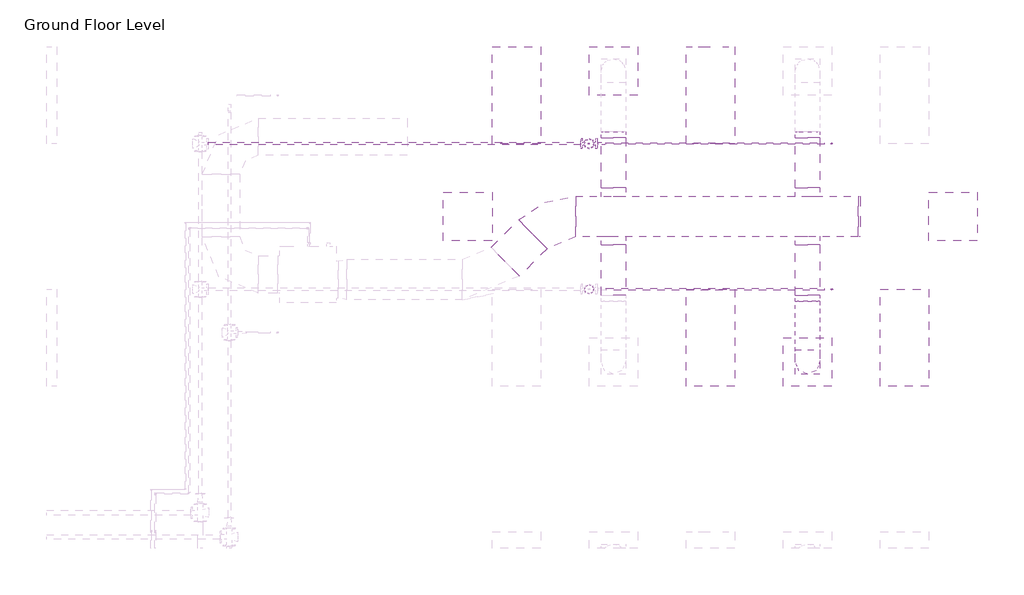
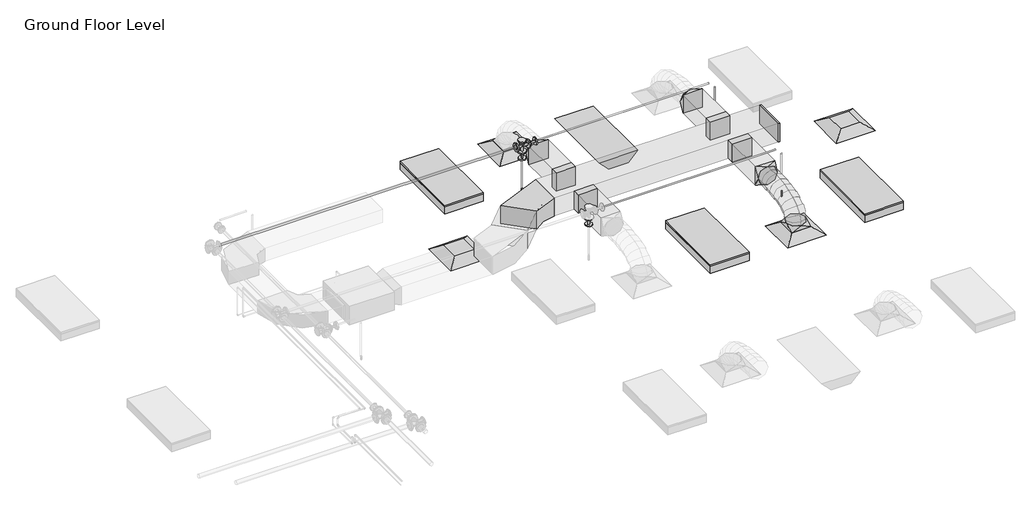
# One storey, part 71 of 72: 10 duct fittings, 7 duct segments, 6 pipe segments, 4 air terminals, 4 light fixtures, 4 pipe fittings, 3 fire suppression terminals.
"""IFC4 building model written with IfcOpenShell, lengths in millimetres."""

from ifc_helpers import new_model, si_unit, point, frame, frame_2d, origin, place, context, project, spatial, polyline, circle_curve, ellipse_curve, trimmed, segment, composite_curve, outline, extrude, transform, mapped, element, save
from ifc_brep_helpers import plane_surface, cylinder_surface, advanced_brep
from components import m_return_diffuser_600_x_600_face_300_x_300_connection_ff221211, m_rectangular_elbow_radius_1_5_w_acc56c25, m_rectangular_endcap_standard_72d4d00d, m_rectangular_takeoff_standard_cb0ccb98, m_rectangular_takeoff_standard_2be5eba1, m_rectangular_to_round_transition_angle_45_degree_641efff0, m_sprinkler_dry_pendent_hosted_15_mm_dry_pendent_9bda8e11, m_emergency_recessed_lighting_fixture_600x1200_277_5b10b25d, m_troffer_light_parabolic_rectangular1_0600x1200mm_4_lamp_86473d4a, m_reducer_flanged_cs_class_150_standard_ccf252ad, m_tee_round_base_flanged_cs_class_150_standard_7e5987a1

model = new_model("IFC4")

# Units and contexts
model_context = context("Model", 3, world=origin())
ifc_project = project(units=[si_unit("LENGTHUNIT", "METRE", prefix="MILLI")], contexts=[model_context])

# Site, building, storey
site = spatial("IfcSite", under=ifc_project)
building = spatial("IfcBuilding", under=site)
storey = spatial("IfcBuildingStorey", under=building, Name="Ground Floor Level", Elevation=900.0)

# Air terminals
placement = place(None, origin())
m_return_diffuser_600_x_600_face_300_x_300_connection_shape = m_return_diffuser_600_x_600_face_300_x_300_connection_ff221211(model_context)
element("IfcAirTerminal", 1, ObjectType="M_Return Diffuser : 600 x 600 Face 300 x 300 Connection", at=placement, inside=storey, context=model_context, shape_type="MappedRepresentation", body=[
    mapped(m_return_diffuser_600_x_600_face_300_x_300_connection_shape, transform((8942.7672395, 18735.2153534, 3650.0), x_axis=(1.0, 0.0, 0.0), y_axis=(0.0, 1.0, 0.0), z_axis=(0.0, 0.0, 1.0))),
])
element("IfcAirTerminal", 2, ObjectType="M_Return Diffuser : 600 x 600 Face 300 x 300 Connection", at=placement, inside=storey, context=model_context, shape_type="MappedRepresentation", body=[
    mapped(m_return_diffuser_600_x_600_face_300_x_300_connection_shape, transform((14942.7672395, 18735.2153534, 3650.0), x_axis=(1.0, 0.0, 0.0), y_axis=(0.0, 1.0, 0.0), z_axis=(0.0, 0.0, 1.0))),
])
element("IfcAirTerminal", 3, ObjectType="M_Supply Diffuser : 600 x 600 Face 300 x 300 Connection", at=placement, inside=storey, context=model_context, shape_type="MappedRepresentation", body=[
    mapped(m_return_diffuser_600_x_600_face_300_x_300_connection_shape, transform((10742.7672395, 20535.2153534, 3650.0), x_axis=(1.0, 0.0, 0.0), y_axis=(0.0, 1.0, 0.0), z_axis=(0.0, 0.0, 1.0))),
])
element("IfcAirTerminal", 4, ObjectType="M_Supply Diffuser : 600 x 600 Face 300 x 300 Connection", at=placement, inside=storey, context=model_context, shape_type="MappedRepresentation", body=[
    mapped(m_return_diffuser_600_x_600_face_300_x_300_connection_shape, transform((13142.7672395, 16935.2153534, 3650.0), x_axis=(1.0, 0.0, 0.0), y_axis=(0.0, 1.0, 0.0), z_axis=(0.0, 0.0, 1.0))),
])

# Duct fittings
m_rectangular_elbow_radius_1_5_w_shape = m_rectangular_elbow_radius_1_5_w_acc56c25(model_context)
element("IfcDuctFitting", 5, ObjectType="M_Rectangular Elbow - Radius : 1.5 W", at=placement, inside=storey, context=model_context, shape_type="MappedRepresentation", body=[
    mapped(m_rectangular_elbow_radius_1_5_w_shape, transform((9966.7301365, 18735.2153534, 4100.0), x_axis=(-1.0, 0.0, 0.0), y_axis=(0.0, -0.9999999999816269, 6.061864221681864e-06), z_axis=(0.0, 6.061864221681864e-06, 0.9999999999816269))),
])
m_rectangular_endcap_standard_shape = m_rectangular_endcap_standard_72d4d00d(model_context)
element("IfcDuctFitting", 6, ObjectType="M_Rectangular Endcap : Standard", at=placement, inside=storey, context=model_context, shape_type="MappedRepresentation", body=[
    mapped(m_rectangular_endcap_standard_shape, transform((13766.7301365, 18735.2153534, 4100.0), x_axis=(1.0, 0.0, 0.0), y_axis=(0.0, 1.0, 0.0), z_axis=(0.0, 0.0, 1.0))),
])
m_rectangular_takeoff_standard_shape = m_rectangular_takeoff_standard_cb0ccb98(model_context)
element("IfcDuctFitting", 7, ObjectType="M_Rectangular Takeoff : Standard", at=placement, inside=storey, context=model_context, shape_type="MappedRepresentation", body=[
    mapped(m_rectangular_takeoff_standard_shape, transform((10742.7672395, 18985.2153534, 4100.0), x_axis=(0.0, 1.0, 0.0), y_axis=(1.0, 0.0, 0.0), z_axis=(0.0, 0.0, -1.0))),
])
element("IfcDuctFitting", 8, ObjectType="M_Rectangular Takeoff : Standard", at=placement, inside=storey, context=model_context, shape_type="MappedRepresentation", body=[
    mapped(m_rectangular_takeoff_standard_shape, transform((13142.7672395, 18985.2153534, 4100.0), x_axis=(0.0, 1.0, 0.0), y_axis=(1.0, 0.0, 0.0), z_axis=(0.0, 0.0, -1.0))),
])
m_rectangular_takeoff_standard_2_shape = m_rectangular_takeoff_standard_2be5eba1(model_context)
element("IfcDuctFitting", 9, ObjectType="M_Rectangular Takeoff : Standard", at=placement, inside=storey, context=model_context, shape_type="MappedRepresentation", body=[
    mapped(m_rectangular_takeoff_standard_2_shape, transform((13142.7672395, 18485.2153534, 4100.0), x_axis=(0.0, -1.0, 0.0), y_axis=(-1.0, 0.0, 0.0), z_axis=(0.0, 0.0, -1.0))),
])
element("IfcDuctFitting", 10, ObjectType="M_Rectangular Takeoff : Standard", at=placement, inside=storey, context=model_context, shape_type="MappedRepresentation", body=[
    mapped(m_rectangular_takeoff_standard_2_shape, transform((10742.7672395, 18485.2153534, 4100.0), x_axis=(0.0, -1.0, 0.0), y_axis=(-1.0, 0.0, 0.0), z_axis=(0.0, 0.0, -1.0))),
])
m_rectangular_to_round_transition_angle_45_degree_shape = m_rectangular_to_round_transition_angle_45_degree_641efff0(model_context)
element("IfcDuctFitting", 11, ObjectType="M_Rectangular to Round Transition - Angle : 45 Degree", at=placement, inside=storey, context=model_context, shape_type="MappedRepresentation", body=[
    mapped(m_rectangular_to_round_transition_angle_45_degree_shape, transform((10742.7672395, 19707.8794221, 4100.0), x_axis=(0.0, 1.0, 0.0), y_axis=(-1.0, 0.0, 0.0), z_axis=(0.0, 0.0, 1.0))),
])
element("IfcDuctFitting", 12, ObjectType="M_Rectangular to Round Transition - Angle : 45 Degree", at=placement, inside=storey, context=model_context, shape_type="MappedRepresentation", body=[
    mapped(m_rectangular_to_round_transition_angle_45_degree_shape, transform((13142.7672395, 19707.8794221, 4100.0), x_axis=(0.0, 1.0, 0.0), y_axis=(-1.0, 0.0, 0.0), z_axis=(0.0, 0.0, 1.0))),
])
element("IfcDuctFitting", 13, ObjectType="M_Rectangular to Round Transition - Angle : 45 Degree", at=placement, inside=storey, context=model_context, shape_type="MappedRepresentation", body=[
    mapped(m_rectangular_to_round_transition_angle_45_degree_shape, transform((13142.7672395, 16935.2153534, 3751.6), x_axis=(0.0, 0.0, 1.0), y_axis=(-1.0, 0.0, 0.0), z_axis=(0.0, -1.0, 0.0))),
])
element("IfcDuctFitting", 14, ObjectType="M_Rectangular to Round Transition - Angle : 45 Degree", at=placement, inside=storey, context=model_context, shape_type="MappedRepresentation", body=[
    mapped(m_rectangular_to_round_transition_angle_45_degree_shape, transform((13142.7672395, 17762.5512847, 4100.0), x_axis=(0.0, -1.0, 0.0), y_axis=(1.0, 0.0, 0.0), z_axis=(0.0, 0.0, 1.0))),
])

# Duct segments
element("IfcDuctSegment", 15, ObjectType="Flex - Round", at=placement, inside=storey, context=model_context, shape_type="AdvancedBrep", body=[
    advanced_brep(
    [(13292.7672395, 16935.2153534, 3826.6), (13142.7672395, 16785.2153534, 3826.6), (12992.7672395, 16935.2153534, 3826.6), (13142.7672395, 17085.2153534, 3826.6), (13292.7672395, 16935.2153534, 3857.9377114), (13142.7672395, 16785.2153534, 3883.5809337), (12992.7672395, 16935.2153534, 3857.9377114), (13142.7672395, 17085.2153534, 3832.2944892), (13292.7672395, 16952.2312859, 3906.2505728), (13142.7672395, 16818.493307, 3978.0660967), (12992.7672395, 16952.2312859, 3906.2505728), (13142.7672395, 17085.9692649, 3834.435049), (13292.7672395, 16999.4151663, 3968.7113131), (13142.7672395, 16895.209267, 4079.6206026), (12992.7672395, 16999.4151663, 3968.7113131), (13142.7672395, 17103.6210655, 3857.8020236), (13292.7672395, 17070.9711184, 4016.0700639), (13142.7672395, 17002.0370628, 4150.3237489), (12992.7672395, 17070.9711184, 4016.0700639), (13142.7672395, 17139.9051741, 3881.8163788), (13292.7672395, 17161.1032664, 4050.4146682), (13142.7672395, 17117.5425033, 4194.3367758), (12992.7672395, 17161.1032664, 4050.4146682), (13142.7672395, 17204.6640296, 3906.4925606), (13292.7672395, 17264.0157343, 4073.8329691), (13142.7672395, 17237.4548103, 4221.6234841), (12992.7672395, 17264.0157343, 4073.8329691), (13142.7672395, 17290.5766583, 3926.0424542), (13292.7672395, 17373.912646, 4088.4128097), (13142.7672395, 17358.7617437, 4237.7170733), (12992.7672395, 17373.912646, 4088.4128097), (13142.7672395, 17389.0635483, 3939.1085462), (13292.7672395, 17484.9981256, 4096.242033), (13142.7672395, 17477.4927975, 4246.085151), (12992.7672395, 17484.9981256, 4096.242033), (13142.7672395, 17492.5034538, 3946.398915), (13292.7672395, 17591.4762972, 4099.4084821), (13142.7672395, 17588.7848041, 4249.394754), (12992.7672395, 17591.4762972, 4099.4084821), (13142.7672395, 17594.1677903, 3949.4222102), (13292.7672395, 17687.5512847, 4100.0), (13142.7672395, 17688.4747925, 3950.0028429), (12992.7672395, 17687.5512847, 4100.0), (13142.7672395, 17686.6277768, 4249.9971571)],
    [
        (0, 1, circle_curve(frame((13142.7672395, 16935.2153534, 3826.6), z_axis=(0.0, 0.0, -1.0), x_axis=(1.0, 0.0, 0.0)), 150.0)),
        (1, 2, circle_curve(frame((13142.7672395, 16935.2153534, 3826.6), z_axis=(0.0, 0.0, -1.0), x_axis=(1.0, 0.0, 0.0)), 150.0)),
        (2, 3, circle_curve(frame((13142.7672395, 16935.2153534, 3826.6), z_axis=(0.0, 0.0, -1.0), x_axis=(1.0, 0.0, 0.0)), 150.0)),
        (3, 0, circle_curve(frame((13142.7672395, 16935.2153534, 3826.6), z_axis=(0.0, 0.0, -1.0), x_axis=(1.0, 0.0, 0.0)), 150.0)),
        (0, 4),
        (4, 5, ellipse_curve(frame((13142.7672395, 16935.2153534, 3857.9377114), z_axis=(0.0, -0.16851014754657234, -0.9856999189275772), x_axis=(0.0, 0.9856999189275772, -0.1685101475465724)), 152.176131, 150.0)),
        (5, 1),
        (5, 6, ellipse_curve(frame((13142.7672395, 16935.2153534, 3857.9377114), z_axis=(0.0, -0.16851014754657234, -0.9856999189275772), x_axis=(0.0, 0.9856999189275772, -0.1685101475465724)), 152.176131, 150.0)),
        (6, 2),
        (6, 7, ellipse_curve(frame((13142.7672395, 16935.2153534, 3857.9377114), z_axis=(0.0, -0.16851014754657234, -0.9856999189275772), x_axis=(0.0, 0.9856999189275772, -0.1685101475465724)), 152.176131, 150.0)),
        (7, 3),
        (7, 4, ellipse_curve(frame((13142.7672395, 16935.2153534, 3857.9377114), z_axis=(0.0, -0.16851014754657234, -0.9856999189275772), x_axis=(0.0, 0.9856999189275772, -0.1685101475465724)), 152.176131, 150.0)),
        (4, 8),
        (8, 9, ellipse_curve(frame((13142.7672395, 16952.2312859, 3906.2505728), z_axis=(0.0, -0.4730922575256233, -0.8810128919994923), x_axis=(0.0, 0.8810128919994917, -0.47309225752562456)), 151.8002519, 150.0)),
        (9, 5),
        (9, 10, ellipse_curve(frame((13142.7672395, 16952.2312859, 3906.2505728), z_axis=(0.0, -0.4730922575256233, -0.8810128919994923), x_axis=(0.0, 0.8810128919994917, -0.47309225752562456)), 151.8002519, 150.0)),
        (10, 6),
        (10, 11, ellipse_curve(frame((13142.7672395, 16952.2312859, 3906.2505728), z_axis=(0.0, -0.4730922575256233, -0.8810128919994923), x_axis=(0.0, 0.8810128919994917, -0.47309225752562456)), 151.8002519, 150.0)),
        (11, 7),
        (11, 8, ellipse_curve(frame((13142.7672395, 16952.2312859, 3906.2505728), z_axis=(0.0, -0.4730922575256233, -0.8810128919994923), x_axis=(0.0, 0.8810128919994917, -0.47309225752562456)), 151.8002519, 150.0)),
        (8, 12),
        (12, 13, ellipse_curve(frame((13142.7672395, 16999.4151663, 3968.7113131), z_axis=(0.0, -0.7287877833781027, -0.684739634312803), x_axis=(0.0, 0.6847396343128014, -0.7287877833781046)), 152.1832446, 150.0)),
        (13, 9),
        (13, 14, ellipse_curve(frame((13142.7672395, 16999.4151663, 3968.7113131), z_axis=(0.0, -0.7287877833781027, -0.684739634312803), x_axis=(0.0, 0.6847396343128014, -0.7287877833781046)), 152.1832446, 150.0)),
        (14, 10),
        (14, 15, ellipse_curve(frame((13142.7672395, 16999.4151663, 3968.7113131), z_axis=(0.0, -0.7287877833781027, -0.684739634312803), x_axis=(0.0, 0.6847396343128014, -0.7287877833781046)), 152.1832446, 150.0)),
        (15, 11),
        (15, 12, ellipse_curve(frame((13142.7672395, 16999.4151663, 3968.7113131), z_axis=(0.0, -0.7287877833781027, -0.684739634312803), x_axis=(0.0, 0.6847396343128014, -0.7287877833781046)), 152.1832446, 150.0)),
        (12, 16),
        (16, 17, ellipse_curve(frame((13142.7672395, 17070.9711184, 4016.0700639), z_axis=(0.0, -0.8895859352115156, -0.45676784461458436), x_axis=(0.0, 0.45676784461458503, -0.8895859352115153)), 150.91705, 150.0)),
        (17, 13),
        (17, 18, ellipse_curve(frame((13142.7672395, 17070.9711184, 4016.0700639), z_axis=(0.0, -0.8895859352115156, -0.45676784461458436), x_axis=(0.0, 0.45676784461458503, -0.8895859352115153)), 150.91705, 150.0)),
        (18, 14),
        (18, 19, ellipse_curve(frame((13142.7672395, 17070.9711184, 4016.0700639), z_axis=(0.0, -0.8895859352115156, -0.45676784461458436), x_axis=(0.0, 0.45676784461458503, -0.8895859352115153)), 150.91705, 150.0)),
        (19, 15),
        (19, 16, ellipse_curve(frame((13142.7672395, 17070.9711184, 4016.0700639), z_axis=(0.0, -0.8895859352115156, -0.45676784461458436), x_axis=(0.0, 0.45676784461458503, -0.8895859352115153)), 150.91705, 150.0)),
        (16, 20),
        (20, 21, ellipse_curve(frame((13142.7672395, 17161.1032664, 4050.4146682), z_axis=(0.0, -0.9571203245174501, -0.2896906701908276), x_axis=(0.0, 0.28969067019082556, -0.9571203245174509)), 150.369921, 150.0)),
        (21, 17),
        (21, 22, ellipse_curve(frame((13142.7672395, 17161.1032664, 4050.4146682), z_axis=(0.0, -0.9571203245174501, -0.2896906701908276), x_axis=(0.0, 0.28969067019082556, -0.9571203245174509)), 150.369921, 150.0)),
        (22, 18),
        (22, 23, ellipse_curve(frame((13142.7672395, 17161.1032664, 4050.4146682), z_axis=(0.0, -0.9571203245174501, -0.2896906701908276), x_axis=(0.0, 0.28969067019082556, -0.9571203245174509)), 150.369921, 150.0)),
        (23, 19),
        (23, 20, ellipse_curve(frame((13142.7672395, 17161.1032664, 4050.4146682), z_axis=(0.0, -0.9571203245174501, -0.2896906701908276), x_axis=(0.0, 0.28969067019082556, -0.9571203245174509)), 150.369921, 150.0)),
        (20, 24),
        (24, 25, ellipse_curve(frame((13142.7672395, 17264.0157343, 4073.8329691), z_axis=(0.0, -0.9842313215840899, -0.176886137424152), x_axis=(0.0, 0.17688613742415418, -0.9842313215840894)), 150.1583131, 150.0)),
        (25, 21),
        (25, 26, ellipse_curve(frame((13142.7672395, 17264.0157343, 4073.8329691), z_axis=(0.0, -0.9842313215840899, -0.176886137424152), x_axis=(0.0, 0.17688613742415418, -0.9842313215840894)), 150.1583131, 150.0)),
        (26, 22),
        (26, 27, ellipse_curve(frame((13142.7672395, 17264.0157343, 4073.8329691), z_axis=(0.0, -0.9842313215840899, -0.176886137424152), x_axis=(0.0, 0.17688613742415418, -0.9842313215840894)), 150.1583131, 150.0)),
        (27, 23),
        (27, 24, ellipse_curve(frame((13142.7672395, 17264.0157343, 4073.8329691), z_axis=(0.0, -0.9842313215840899, -0.176886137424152), x_axis=(0.0, 0.17688613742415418, -0.9842313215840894)), 150.1583131, 150.0)),
        (24, 28),
        (28, 29, ellipse_curve(frame((13142.7672395, 17373.912646, 4088.4128097), z_axis=(0.0, -0.9948906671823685, -0.10095821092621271), x_axis=(0.0, 0.10095821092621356, -0.9948906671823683)), 150.0710264, 150.0)),
        (29, 25),
        (29, 30, ellipse_curve(frame((13142.7672395, 17373.912646, 4088.4128097), z_axis=(0.0, -0.9948906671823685, -0.10095821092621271), x_axis=(0.0, 0.10095821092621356, -0.9948906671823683)), 150.0710264, 150.0)),
        (30, 26),
        (30, 31, ellipse_curve(frame((13142.7672395, 17373.912646, 4088.4128097), z_axis=(0.0, -0.9948906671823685, -0.10095821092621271), x_axis=(0.0, 0.10095821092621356, -0.9948906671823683)), 150.0710264, 150.0)),
        (31, 27),
        (31, 28, ellipse_curve(frame((13142.7672395, 17373.912646, 4088.4128097), z_axis=(0.0, -0.9948906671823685, -0.10095821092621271), x_axis=(0.0, 0.10095821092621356, -0.9948906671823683)), 150.0710264, 150.0)),
        (28, 32),
        (32, 33, ellipse_curve(frame((13142.7672395, 17484.9981256, 4096.242033), z_axis=(0.0, -0.9987479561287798, -0.050025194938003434), x_axis=(0.0, 0.05002519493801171, -0.9987479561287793)), 150.0309634, 150.0)),
        (33, 29),
        (33, 34, ellipse_curve(frame((13142.7672395, 17484.9981256, 4096.242033), z_axis=(0.0, -0.9987479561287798, -0.050025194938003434), x_axis=(0.0, 0.05002519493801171, -0.9987479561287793)), 150.0309634, 150.0)),
        (34, 30),
        (34, 35, ellipse_curve(frame((13142.7672395, 17484.9981256, 4096.242033), z_axis=(0.0, -0.9987479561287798, -0.050025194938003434), x_axis=(0.0, 0.05002519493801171, -0.9987479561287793)), 150.0309634, 150.0)),
        (35, 31),
        (35, 32, ellipse_curve(frame((13142.7672395, 17484.9981256, 4096.242033), z_axis=(0.0, -0.9987479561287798, -0.050025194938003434), x_axis=(0.0, 0.05002519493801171, -0.9987479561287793)), 150.0309634, 150.0)),
        (32, 36),
        (36, 37, ellipse_curve(frame((13142.7672395, 17591.4762972, 4099.4084821), z_axis=(0.0, -0.9998390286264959, -0.01794204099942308), x_axis=(0.0, 0.017942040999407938, -0.9998390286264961)), 150.0104193, 150.0)),
        (37, 33),
        (37, 38, ellipse_curve(frame((13142.7672395, 17591.4762972, 4099.4084821), z_axis=(0.0, -0.9998390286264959, -0.01794204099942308), x_axis=(0.0, 0.017942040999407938, -0.9998390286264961)), 150.0104193, 150.0)),
        (38, 34),
        (38, 39, ellipse_curve(frame((13142.7672395, 17591.4762972, 4099.4084821), z_axis=(0.0, -0.9998390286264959, -0.01794204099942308), x_axis=(0.0, 0.017942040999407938, -0.9998390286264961)), 150.0104193, 150.0)),
        (39, 35),
        (39, 36, ellipse_curve(frame((13142.7672395, 17591.4762972, 4099.4084821), z_axis=(0.0, -0.9998390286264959, -0.01794204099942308), x_axis=(0.0, 0.017942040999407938, -0.9998390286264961)), 150.0104193, 150.0)),
        (40, 41, circle_curve(frame((13142.7672395, 17687.5512847, 4100.0), z_axis=(0.0, 0.9999810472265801, 0.006156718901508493), x_axis=(1.0, 0.0, 0.0)), 150.0)),
        (41, 42, circle_curve(frame((13142.7672395, 17687.5512847, 4100.0), z_axis=(0.0, 0.9999810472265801, 0.006156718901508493), x_axis=(1.0, 0.0, 0.0)), 150.0)),
        (42, 43, circle_curve(frame((13142.7672395, 17687.5512847, 4100.0), z_axis=(0.0, 0.9999810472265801, 0.006156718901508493), x_axis=(1.0, 0.0, 0.0)), 150.0)),
        (43, 40, circle_curve(frame((13142.7672395, 17687.5512847, 4100.0), z_axis=(0.0, 0.9999810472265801, 0.006156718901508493), x_axis=(1.0, 0.0, 0.0)), 150.0)),
        (36, 40),
        (43, 37),
        (42, 38),
        (41, 39),
    ],
    [
        plane_surface(frame((13142.7672395, 16785.2153534, 3826.6), z_axis=(0.0, 0.0, -1.0), x_axis=(1.0, 0.0, 0.0))),
        cylinder_surface(frame((13142.7672395, 16935.2153534, 3826.6), z_axis=(0.0, 0.0, -1.0), x_axis=(1.0, 0.0, 0.0)), 150.0),
        cylinder_surface(frame((13142.7672395, 16935.2153534, 3857.9377114), z_axis=(0.0, -0.3322008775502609, -0.9432086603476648), x_axis=(1.0, 0.0, 0.0)), 150.0),
        cylinder_surface(frame((13142.7672395, 16952.2312859, 3906.2505728), z_axis=(0.0, -0.6027625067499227, -0.7979206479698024), x_axis=(1.0, 0.0, 0.0)), 150.0),
        cylinder_surface(frame((13142.7672395, 16999.4151663, 3968.7113131), z_axis=(0.0, -0.8339024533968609, -0.5519118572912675), x_axis=(1.0, 0.0, 0.0)), 150.0),
        cylinder_surface(frame((13142.7672395, 17070.9711184, 4016.0700639), z_axis=(0.0, -0.9344582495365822, -0.35607271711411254), x_axis=(1.0, 0.0, 0.0)), 150.0),
        cylinder_surface(frame((13142.7672395, 17161.1032664, 4050.4146682), z_axis=(0.0, -0.9750732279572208, -0.22188330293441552), x_axis=(1.0, 0.0, 0.0)), 150.0),
        cylinder_surface(frame((13142.7672395, 17264.0157343, 4073.8329691), z_axis=(0.0, -0.9913140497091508, -0.13151598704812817), x_axis=(1.0, 0.0, 0.0)), 150.0),
        cylinder_surface(frame((13142.7672395, 17373.912646, 4088.4128097), z_axis=(0.0, -0.9975255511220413, -0.07030487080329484), x_axis=(1.0, 0.0, 0.0)), 150.0),
        cylinder_surface(frame((13142.7672395, 17484.9981256, 4096.242033), z_axis=(0.0, -0.9995581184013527, -0.029724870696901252), x_axis=(1.0, 0.0, 0.0)), 150.0),
        plane_surface(frame((13142.7672395, 17686.6277768, 4249.9971571), z_axis=(0.0, 0.9999810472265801, 0.0061567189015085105), x_axis=(1.0, 0.0, 0.0))),
        cylinder_surface(frame((13142.7672395, 17591.4762972, 4099.4084821), z_axis=(0.0, -0.9999810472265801, -0.006156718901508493), x_axis=(1.0, 0.0, 0.0)), 150.0),
    ],
    [
        (0, [[1, 2, 3, 4]]),
        (1, [[-1, 5, 6, 7]]),
        (1, [[-2, -7, 8, 9]]),
        (1, [[-3, -9, 10, 11]]),
        (1, [[-4, -11, 12, -5]]),
        (2, [[-6, 13, 14, 15]]),
        (2, [[-8, -15, 16, 17]]),
        (2, [[-10, -17, 18, 19]]),
        (2, [[-12, -19, 20, -13]]),
        (3, [[-14, 21, 22, 23]]),
        (3, [[-16, -23, 24, 25]]),
        (3, [[-18, -25, 26, 27]]),
        (3, [[-20, -27, 28, -21]]),
        (4, [[-22, 29, 30, 31]]),
        (4, [[-24, -31, 32, 33]]),
        (4, [[-26, -33, 34, 35]]),
        (4, [[-28, -35, 36, -29]]),
        (5, [[-30, 37, 38, 39]]),
        (5, [[-32, -39, 40, 41]]),
        (5, [[-34, -41, 42, 43]]),
        (5, [[-36, -43, 44, -37]]),
        (6, [[-38, 45, 46, 47]]),
        (6, [[-40, -47, 48, 49]]),
        (6, [[-42, -49, 50, 51]]),
        (6, [[-44, -51, 52, -45]]),
        (7, [[-46, 53, 54, 55]]),
        (7, [[-48, -55, 56, 57]]),
        (7, [[-50, -57, 58, 59]]),
        (7, [[-52, -59, 60, -53]]),
        (8, [[-54, 61, 62, 63]]),
        (8, [[-56, -63, 64, 65]]),
        (8, [[-58, -65, 66, 67]]),
        (8, [[-60, -67, 68, -61]]),
        (9, [[-62, 69, 70, 71]]),
        (9, [[-64, -71, 72, 73]]),
        (9, [[-66, -73, 74, 75]]),
        (9, [[-68, -75, 76, -69]]),
        (10, [[77, 78, 79, 80]]),
        (11, [[-70, 81, -80, 82]]),
        (11, [[-72, -82, -79, 83]]),
        (11, [[-74, -83, -78, 84]]),
        (11, [[-76, -84, -77, -81]]),
    ],
),
])
element("IfcDuctSegment", 16, ObjectType="Radius Elbows / Taps", at=placement, inside=storey, context=model_context, shape_type="SweptSolid", body=[
    extrude(outline(polyline([(9584.1393452, 17999.0711715), (9230.5859546, 18352.6245621), (9570.2835271, 18692.3221346), (9923.8369177, 18338.768744), (9584.1393452, 17999.0711715)])), frame((0.0, 0.0, 3950.0033908), z_axis=(0.0, 0.0, 1.0), x_axis=(1.0, 0.0, 0.0)), (0.0, 0.0, 1.0), 300.0),
])
element("IfcDuctSegment", 17, ObjectType="Radius Elbows / Taps", at=placement, inside=storey, context=model_context, shape_type="SweptSolid", body=[
    extrude(outline(polyline([(10277.3903083, 18485.2153534), (10277.3903083, 18985.2153534), (13766.7301365, 18985.2153534), (13766.7301365, 18485.2153534), (10277.3903083, 18485.2153534)])), frame((0.0, 0.0, 3950.0), z_axis=(0.0, 0.0, 1.0), x_axis=(1.0, 0.0, 0.0)), (0.0, 0.0, 1.0), 300.0),
])
element("IfcDuctSegment", 18, ObjectType="Radius Elbows / Taps", at=placement, inside=storey, context=model_context, shape_type="SweptSolid", body=[
    extrude(outline(polyline([(10892.7672395, 19086.8153534), (10592.7672395, 19086.8153534), (10592.7672395, 19707.8794221), (10892.7672395, 19707.8794221), (10892.7672395, 19086.8153534)])), frame((0.0, 0.0, 3950.0), z_axis=(0.0, 0.0, 1.0), x_axis=(1.0, 0.0, 0.0)), (0.0, 0.0, 1.0), 300.0),
])
element("IfcDuctSegment", 19, ObjectType="Radius Elbows / Taps", at=placement, inside=storey, context=model_context, shape_type="SweptSolid", body=[
    extrude(outline(polyline([(13292.7672395, 19086.8153534), (12992.7672395, 19086.8153534), (12992.7672395, 19707.8794221), (13292.7672395, 19707.8794221), (13292.7672395, 19086.8153534)])), frame((0.0, 0.0, 3950.0), z_axis=(0.0, 0.0, 1.0), x_axis=(1.0, 0.0, 0.0)), (0.0, 0.0, 1.0), 300.0),
])
element("IfcDuctSegment", 20, ObjectType="Radius Elbows / Taps", at=placement, inside=storey, context=model_context, shape_type="SweptSolid", body=[
    extrude(outline(polyline([(12992.7672395, 18383.6153534), (13292.7672395, 18383.6153534), (13292.7672395, 17762.5512847), (12992.7672395, 17762.5512847), (12992.7672395, 18383.6153534)])), frame((0.0, 0.0, 3950.0), z_axis=(0.0, 0.0, 1.0), x_axis=(1.0, 0.0, 0.0)), (0.0, 0.0, 1.0), 300.0),
])
element("IfcDuctSegment", 21, ObjectType="Radius Elbows / Taps", at=placement, inside=storey, context=model_context, shape_type="SweptSolid", body=[
    extrude(outline(polyline([(10592.7672395, 18383.6153534), (10892.7672395, 18383.6153534), (10892.7672395, 17762.5512847), (10592.7672395, 17762.5512847), (10592.7672395, 18383.6153534)])), frame((0.0, 0.0, 3950.0), z_axis=(0.0, 0.0, 1.0), x_axis=(1.0, 0.0, 0.0)), (0.0, 0.0, 1.0), 300.0),
])

# Fire suppression terminals
m_sprinkler_dry_pendent_hosted_15_mm_dry_pendent_shape = m_sprinkler_dry_pendent_hosted_15_mm_dry_pendent_9bda8e11(model_context)
element("IfcFireSuppressionTerminal", 22, ObjectType="M_Sprinkler - Dry - Pendent - Hosted : 15 mm Dry Pendent", at=placement, inside=storey, context=model_context, shape_type="MappedRepresentation", body=[
    mapped(m_sprinkler_dry_pendent_hosted_15_mm_dry_pendent_shape, transform((10442.7672395, 19635.2153534, 3650.0), x_axis=(1.0, 0.0, 0.0), y_axis=(0.0, -1.0, 0.0), z_axis=(0.0, 0.0, -1.0))),
])
element("IfcFireSuppressionTerminal", 23, ObjectType="M_Sprinkler - Dry - Pendent - Hosted : 15 mm Dry Pendent", at=placement, inside=storey, context=model_context, shape_type="MappedRepresentation", body=[
    mapped(m_sprinkler_dry_pendent_hosted_15_mm_dry_pendent_shape, transform((13442.7672395, 19635.2153534, 3650.0), x_axis=(1.0, 0.0, 0.0), y_axis=(0.0, -1.0, 0.0), z_axis=(0.0, 0.0, -1.0))),
])
element("IfcFireSuppressionTerminal", 24, ObjectType="M_Sprinkler - Dry - Pendent - Hosted : 15 mm Dry Pendent", at=placement, inside=storey, context=model_context, shape_type="MappedRepresentation", body=[
    mapped(m_sprinkler_dry_pendent_hosted_15_mm_dry_pendent_shape, transform((13442.7672395, 17835.2153534, 3650.0), x_axis=(1.0, 0.0, 0.0), y_axis=(0.0, -1.0, 0.0), z_axis=(0.0, 0.0, -1.0))),
])

# Light fixtures
m_emergency_recessed_lighting_fixture_600x1200_277_shape = m_emergency_recessed_lighting_fixture_600x1200_277_5b10b25d(model_context)
element("IfcLightFixture", 25, ObjectType="M_Emergency Recessed Lighting Fixture : 600x1200 - 277", at=placement, inside=storey, context=model_context, shape_type="MappedRepresentation", body=[
    mapped(m_emergency_recessed_lighting_fixture_600x1200_277_shape, transform((11642.7672395, 19635.2153534, 3650.0), x_axis=(0.0, 1.0, 0.0), y_axis=(-1.0, 0.0, 0.0), z_axis=(0.0, 0.0, 1.0))),
])
m_troffer_light_parabolic_rectangular1_0600x1200mm_4_lamp_shape = m_troffer_light_parabolic_rectangular1_0600x1200mm_4_lamp_86473d4a(model_context)
element("IfcLightFixture", 26, ObjectType="M_Troffer Light - Parabolic Rectangular1 : 0600x1200mm(4 Lamp) - 277V 2", at=placement, inside=storey, context=model_context, shape_type="MappedRepresentation", body=[
    mapped(m_troffer_light_parabolic_rectangular1_0600x1200mm_4_lamp_shape, transform((9483.3013074, 20253.918855, 3650.0), x_axis=(0.0, 1.0, 0.0), y_axis=(-1.0, 0.0, 0.0), z_axis=(0.0, 0.0, 1.0))),
])
element("IfcLightFixture", 27, ObjectType="M_Troffer Light - Parabolic Rectangular1 : 0600x1200mm(4 Lamp) - 277V 2", at=placement, inside=storey, context=model_context, shape_type="MappedRepresentation", body=[
    mapped(m_troffer_light_parabolic_rectangular1_0600x1200mm_4_lamp_shape, transform((11883.3013074, 17253.918855, 3650.0), x_axis=(0.0, 1.0, 0.0), y_axis=(-1.0, 0.0, 0.0), z_axis=(0.0, 0.0, 1.0))),
])
element("IfcLightFixture", 28, ObjectType="M_Troffer Light - Parabolic Rectangular1 : 0600x1200mm(4 Lamp) - 277V 2", at=placement, inside=storey, context=model_context, shape_type="MappedRepresentation", body=[
    mapped(m_troffer_light_parabolic_rectangular1_0600x1200mm_4_lamp_shape, transform((14283.3013074, 17253.918855, 3650.0), x_axis=(0.0, 1.0, 0.0), y_axis=(-1.0, 0.0, 0.0), z_axis=(0.0, 0.0, 1.0))),
])

# Pipe fittings
m_reducer_flanged_cs_class_150_standard_shape = m_reducer_flanged_cs_class_150_standard_ccf252ad(model_context)
element("IfcPipeFitting", 29, ObjectType="M_Reducer - Flanged - CS - Class 150 : Standard", at=placement, inside=storey, context=model_context, shape_type="MappedRepresentation", body=[
    mapped(m_reducer_flanged_cs_class_150_standard_shape, transform((10442.7672395, 17835.2153534, 4259.2914062), x_axis=(0.0, 0.0, -1.0), y_axis=(-1.0, 0.0, 0.0), z_axis=(0.0, 1.0, 0.0))),
])
element("IfcPipeFitting", 30, ObjectType="M_Reducer - Flanged - CS - Class 150 : Standard", at=placement, inside=storey, context=model_context, shape_type="MappedRepresentation", body=[
    mapped(m_reducer_flanged_cs_class_150_standard_shape, transform((10543.4758332, 19635.2153534, 4360.0), x_axis=(1.0, 0.0, 0.0), y_axis=(0.0, 0.0, 1.0), z_axis=(0.0, -1.0, 0.0))),
])
element("IfcPipeFitting", 31, ObjectType="M_Reducer - Flanged - CS - Class 150 : Standard", at=placement, inside=storey, context=model_context, shape_type="MappedRepresentation", body=[
    mapped(m_reducer_flanged_cs_class_150_standard_shape, transform((10442.7672395, 19635.2153534, 4259.2914062), x_axis=(0.0, 0.0, -1.0), y_axis=(-1.0, 0.0, 0.0), z_axis=(0.0, 1.0, 0.0))),
])
m_tee_round_base_flanged_cs_class_150_standard_shape = m_tee_round_base_flanged_cs_class_150_standard_7e5987a1(model_context)
element("IfcPipeFitting", 32, ObjectType="M_Tee Round Base - Flanged - CS - Class 150 : Standard", at=placement, inside=storey, context=model_context, shape_type="MappedRepresentation", body=[
    mapped(m_tee_round_base_flanged_cs_class_150_standard_shape, transform((10442.7672395, 19635.2153534, 4360.0), x_axis=(1.0, 0.0, 0.0), y_axis=(0.0, 0.0, 1.0), z_axis=(0.0, -1.0, 0.0))),
])

# Pipe segments
element("IfcPipeSegment", 33, ObjectType="Steel flanged", at=placement, inside=storey, context=model_context, shape_type="SweptSolid", body=[
    extrude(outline(composite_curve([segment(trimmed(circle_curve(frame_2d((13442.7672395, 19635.2153534)), 10.668), [point((13432.0992395, 19635.2153534))], [point((13442.7672395, 19645.8833534))], False, "CARTESIAN"), True, "CONTINUOUS"), segment(trimmed(circle_curve(frame_2d((13442.7672395, 19635.2153534)), 10.668), [point((13442.7672395, 19645.8833534))], [point((13453.4352395, 19635.2153534))], False, "CARTESIAN"), True, "CONTINUOUS"), segment(trimmed(circle_curve(frame_2d((13442.7672395, 19635.2153534)), 10.668), [point((13453.4352395, 19635.2153534))], [point((13442.7672395, 19624.5473534))], False, "CARTESIAN"), True, "CONTINUOUS"), segment(trimmed(circle_curve(frame_2d((13442.7672395, 19635.2153534)), 10.668), [point((13442.7672395, 19624.5473534))], [point((13432.0992395, 19635.2153534))], False, "CARTESIAN"), True, "CONTINUOUS")], self_intersect=False)), frame((0.0, 0.0, 3650.0), z_axis=(0.0, 0.0, 1.0), x_axis=(1.0, 0.0, 0.0)), (0.0, 0.0, 1.0), 616.9914062),
])
element("IfcPipeSegment", 34, ObjectType="Steel flanged", at=placement, inside=storey, context=model_context, shape_type="SweptSolid", body=[
    extrude(outline(composite_curve([segment(trimmed(circle_curve(frame_2d((13442.7672395, 17835.2153534)), 10.668), [point((13432.0992395, 17835.2153534))], [point((13442.7672395, 17845.8833534))], False, "CARTESIAN"), True, "CONTINUOUS"), segment(trimmed(circle_curve(frame_2d((13442.7672395, 17835.2153534)), 10.668), [point((13442.7672395, 17845.8833534))], [point((13453.4352395, 17835.2153534))], False, "CARTESIAN"), True, "CONTINUOUS"), segment(trimmed(circle_curve(frame_2d((13442.7672395, 17835.2153534)), 10.668), [point((13453.4352395, 17835.2153534))], [point((13442.7672395, 17824.5473534))], False, "CARTESIAN"), True, "CONTINUOUS"), segment(trimmed(circle_curve(frame_2d((13442.7672395, 17835.2153534)), 10.668), [point((13442.7672395, 17824.5473534))], [point((13432.0992395, 17835.2153534))], False, "CARTESIAN"), True, "CONTINUOUS")], self_intersect=False)), frame((0.0, 0.0, 3650.0), z_axis=(0.0, 0.0, 1.0), x_axis=(1.0, 0.0, 0.0)), (0.0, 0.0, 1.0), 616.9914062),
])
element("IfcPipeSegment", 35, ObjectType="Steel flanged", at=placement, inside=storey, context=model_context, shape_type="SweptSolid", body=[
    extrude(outline(composite_curve([segment(trimmed(circle_curve(frame_2d((17835.2153534, 4360.0)), 10.668), [point((17845.8833534, 4360.0))], [point((17835.2153534, 4349.332))], False, "CARTESIAN"), True, "CONTINUOUS"), segment(trimmed(circle_curve(frame_2d((17835.2153534, 4360.0)), 10.668), [point((17835.2153534, 4349.332))], [point((17824.5473534, 4360.0))], False, "CARTESIAN"), True, "CONTINUOUS"), segment(trimmed(circle_curve(frame_2d((17835.2153534, 4360.0)), 10.668), [point((17824.5473534, 4360.0))], [point((17835.2153534, 4370.668))], False, "CARTESIAN"), True, "CONTINUOUS"), segment(trimmed(circle_curve(frame_2d((17835.2153534, 4360.0)), 10.668), [point((17835.2153534, 4370.668))], [point((17845.8833534, 4360.0))], False, "CARTESIAN"), True, "CONTINUOUS")], self_intersect=False)), frame((10657.4758332, 0.0, 0.0), z_axis=(1.0, 0.0, 0.0), x_axis=(0.0, 1.0, 0.0)), (0.0, 0.0, 1.0), 2692.2828125),
])
element("IfcPipeSegment", 36, ObjectType="Steel flanged", at=placement, inside=storey, context=model_context, shape_type="SweptSolid", body=[
    extrude(outline(composite_curve([segment(trimmed(circle_curve(frame_2d((10442.7672395, 19635.2153534)), 10.668), [point((10432.0992395, 19635.2153534))], [point((10442.7672395, 19645.8833534))], False, "CARTESIAN"), True, "CONTINUOUS"), segment(trimmed(circle_curve(frame_2d((10442.7672395, 19635.2153534)), 10.668), [point((10442.7672395, 19645.8833534))], [point((10453.4352395, 19635.2153534))], False, "CARTESIAN"), True, "CONTINUOUS"), segment(trimmed(circle_curve(frame_2d((10442.7672395, 19635.2153534)), 10.668), [point((10453.4352395, 19635.2153534))], [point((10442.7672395, 19624.5473534))], False, "CARTESIAN"), True, "CONTINUOUS"), segment(trimmed(circle_curve(frame_2d((10442.7672395, 19635.2153534)), 10.668), [point((10442.7672395, 19624.5473534))], [point((10432.0992395, 19635.2153534))], False, "CARTESIAN"), True, "CONTINUOUS")], self_intersect=False)), frame((0.0, 0.0, 3650.0), z_axis=(0.0, 0.0, 1.0), x_axis=(1.0, 0.0, 0.0)), (0.0, 0.0, 1.0), 495.2914062),
])
element("IfcPipeSegment", 37, ObjectType="Steel flanged", at=placement, inside=storey, context=model_context, shape_type="SweptSolid", body=[
    extrude(outline(composite_curve([segment(trimmed(circle_curve(frame_2d((19635.2153534, 4360.0)), 16.7005), [point((19651.9158534, 4360.0))], [point((19635.2153534, 4343.2995))], False, "CARTESIAN"), True, "CONTINUOUS"), segment(trimmed(circle_curve(frame_2d((19635.2153534, 4360.0)), 16.7005), [point((19635.2153534, 4343.2995))], [point((19618.5148534, 4360.0))], False, "CARTESIAN"), True, "CONTINUOUS"), segment(trimmed(circle_curve(frame_2d((19635.2153534, 4360.0)), 16.7005), [point((19618.5148534, 4360.0))], [point((19635.2153534, 4376.7005))], False, "CARTESIAN"), True, "CONTINUOUS"), segment(trimmed(circle_curve(frame_2d((19635.2153534, 4360.0)), 16.7005), [point((19635.2153534, 4376.7005))], [point((19651.9158534, 4360.0))], False, "CARTESIAN"), True, "CONTINUOUS")], self_intersect=False)), frame((5736.5780918, 0.0, 0.0), z_axis=(1.0, 0.0, 0.0), x_axis=(0.0, 1.0, 0.0)), (0.0, 0.0, 1.0), 4605.480554),
])
element("IfcPipeSegment", 38, ObjectType="Steel flanged", at=placement, inside=storey, context=model_context, shape_type="SweptSolid", body=[
    extrude(outline(composite_curve([segment(trimmed(circle_curve(frame_2d((19635.2153534, 4360.0)), 10.668), [point((19645.8833534, 4360.0))], [point((19635.2153534, 4349.332))], False, "CARTESIAN"), True, "CONTINUOUS"), segment(trimmed(circle_curve(frame_2d((19635.2153534, 4360.0)), 10.668), [point((19635.2153534, 4349.332))], [point((19624.5473534, 4360.0))], False, "CARTESIAN"), True, "CONTINUOUS"), segment(trimmed(circle_curve(frame_2d((19635.2153534, 4360.0)), 10.668), [point((19624.5473534, 4360.0))], [point((19635.2153534, 4370.668))], False, "CARTESIAN"), True, "CONTINUOUS"), segment(trimmed(circle_curve(frame_2d((19635.2153534, 4360.0)), 10.668), [point((19635.2153534, 4370.668))], [point((19645.8833534, 4360.0))], False, "CARTESIAN"), True, "CONTINUOUS")], self_intersect=False)), frame((10657.4758332, 0.0, 0.0), z_axis=(1.0, 0.0, 0.0), x_axis=(0.0, 1.0, 0.0)), (0.0, 0.0, 1.0), 2692.2828125),
])

save(model, "model.ifc")
